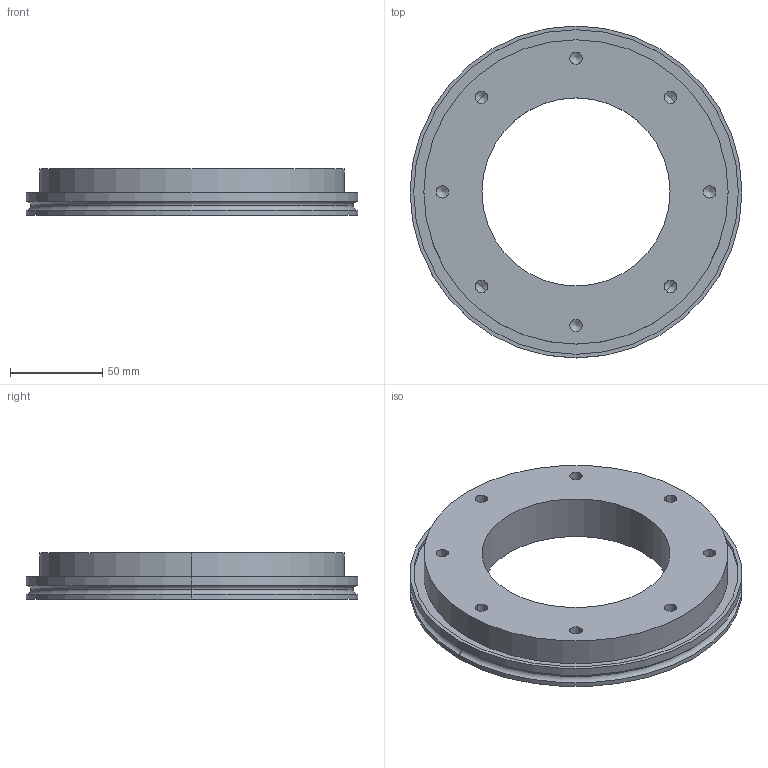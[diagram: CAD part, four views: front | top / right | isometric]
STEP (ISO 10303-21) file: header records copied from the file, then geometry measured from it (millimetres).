
FILE_DESCRIPTION((''),'2;1');
FILE_NAME('W:\212-153.stp','2004-01-08T10:01:37',('KAA'),(''),'Autodesk Inventor (R) 6.0','Autodesk Inventor (R) 6.0','');
FILE_SCHEMA(('CONFIG_CONTROL_DESIGN'));
Length unit declared in the file: millimetre
Products named in the file (1): 212-153
Bounding box: 180 x 180 x 25 mm (x, y, z)
Volume: 352586.8 mm3; surface area: 66668.3 mm2
Topology: 1 solids, 1 shells, 56 faces, 128 edges, 70 vertices
Faces by surface type: bspline 32, cylinder 14, plane 6, torus 4
Entity records: 1985 total; most frequent: CARTESIAN_POINT 783, DIRECTION 228, ORIENTED_EDGE 224, EDGE_CURVE 112, AXIS2_PLACEMENT_3D 91, VERTEX_POINT 70, EDGE_LOOP 70, CIRCLE 66
